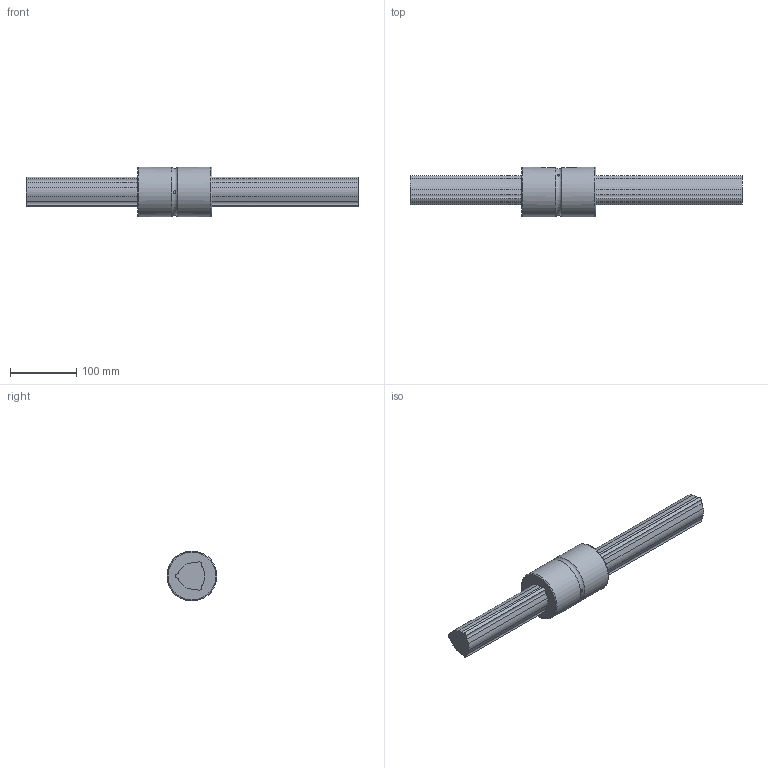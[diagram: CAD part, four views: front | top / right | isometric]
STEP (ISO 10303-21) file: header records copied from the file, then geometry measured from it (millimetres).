
FILE_DESCRIPTION(/* description */ ('STEP AP214'),/* implementation_level */ '2;1');
FILE_NAME(/* name */ 'LBST50+500L(1121680)',/* time_stamp */ '2024-09-04T12:55:27+02:00',/* author */ ('License CC BY-ND 4.0'),/* organization */ ('CADENAS'),/* preprocessor_version */ 'ST-DEVELOPER v19.3',/* originating_system */ 'PARTsolutions',/* authorisation */ ' ');
FILE_SCHEMA (('AUTOMOTIVE_DESIGN {1 0 10303 214 3 1 1}'));
Length unit declared in the file: millimetre
Products named in the file (3): LBST50+500L(1121680); LBST501500 Spline Shaft; LBST50 Nut
Assembly tree (2 placements, depth 2):
  LBST50+500L(1121680)
    LBST501500 Spline Shaft
    LBST50 Nut
Bounding box: 500 x 75 x 75 mm (x, y, z)
Volume: 1009573.9 mm3; surface area: 124477.1 mm2
Topology: 2 solids, 2 shells, 56 faces, 148 edges, 99 vertices
Faces by surface type: cylinder 31, plane 22, torus 3
Full cylindrical faces by diameter (mm): 4 x3, 75 x2
Entity records: 1804 total; most frequent: CARTESIAN_POINT 349, DIRECTION 306, ORIENTED_EDGE 272, EDGE_CURVE 136, AXIS2_PLACEMENT_3D 118, VERTEX_POINT 94, LINE 70, VECTOR 70
